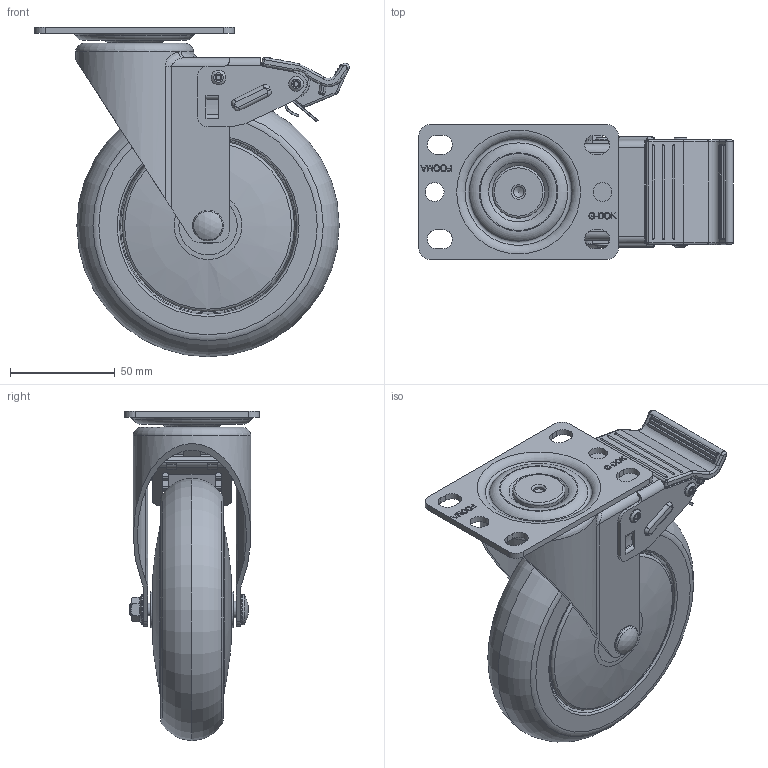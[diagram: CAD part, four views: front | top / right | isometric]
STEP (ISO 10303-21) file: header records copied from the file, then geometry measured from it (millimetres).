
FILE_DESCRIPTION(/* description */ (''),/* implementation_level */ '2;1');
FILE_NAME(/* name */ 'E:\홈피용도면\\X2\C2E0ADDCD648D398C774C9C0C6A9B3C4BA74\X0\\무소음캐스터\20160225-\X2\BB34C18CC74CCE90C2A4D130\X0\\GL-125-BSF.stp',/* time_stamp */ '2016-02-25T21:47:31+09:00',/* author */ ('장용하'),/* organization */ (''),/* preprocessor_version */ 'ST-DEVELOPER v15.6',/* originating_system */ 'Autodesk Inventor 2015',/* authorisation */ '');
FILE_SCHEMA (('AUTOMOTIVE_DESIGN { 1 0 10303 214 3 1 1 }'));
Length unit declared in the file: millimetre
Products named in the file (1): GL-125-BSF
Bounding box: 149.71 x 64 x 157 mm (x, y, z)
Volume: 329051.1 mm3; surface area: 126625.7 mm2
Topology: 3 solids, 4 shells, 1387 faces, 3785 edges, 2452 vertices
Faces by surface type: plane 880, cylinder 284, torus 102, bspline 52, cone 41, sphere 28
Full cylindrical faces by diameter (mm): 5 x3, 5.2 x5, 6 x2, 6.2 x1, 7 x5, 8 x1, 9 x2, 11 x1, 11.1 x1, 11.2 x1, 14 x1, 14.6 x1, 16 x1, 22 x2, 24.645 x1, 25 x1, 41 x1
Entity records: 45783 total; most frequent: CARTESIAN_POINT 10919, ORIENTED_EDGE 7248, DIRECTION 7068, EDGE_CURVE 3624, LINE 2624, VECTOR 2624, VERTEX_POINT 2434, AXIS2_PLACEMENT_3D 2222
